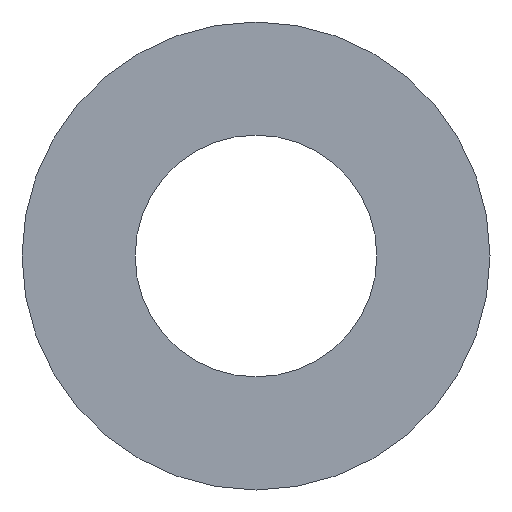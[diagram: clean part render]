
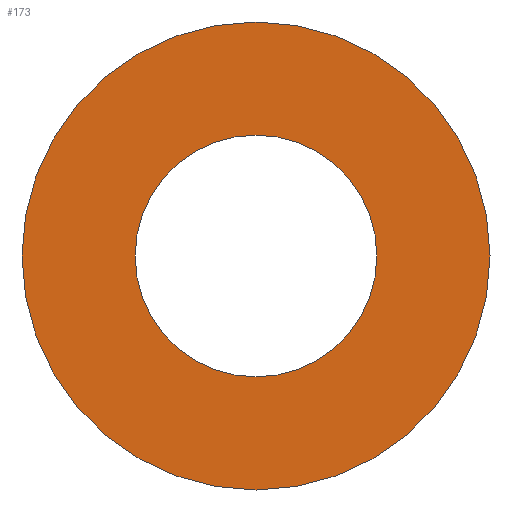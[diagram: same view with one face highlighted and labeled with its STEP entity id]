
A CAD part, front view. The second image highlights one B-rep face of the part: STEP entity #173.
In plain terms, the highlighted planar face has unit normal (0, -1, 0).
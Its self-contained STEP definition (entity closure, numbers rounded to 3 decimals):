
#27 = EDGE_CURVE ( 'NONE', #118, #78, #109, .T. ) ;
#36 = AXIS2_PLACEMENT_3D ( 'NONE', #167, #101, #104 ) ;
#41 = DIRECTION ( 'NONE',  ( 0., 0., 1. ) ) ;
#43 = AXIS2_PLACEMENT_3D ( 'NONE', #207, #44, #231 ) ;
#44 = DIRECTION ( 'NONE',  ( 0., 1., 0. ) ) ;
#45 = EDGE_CURVE ( 'NONE', #78, #118, #202, .T. ) ;
#47 = CARTESIAN_POINT ( 'NONE',  ( 0., 0., 15.5 ) ) ;
#48 = AXIS2_PLACEMENT_3D ( 'NONE', #271, #106, #41 ) ;
#50 = EDGE_CURVE ( 'NONE', #251, #95, #239, .T. ) ;
#53 = EDGE_LOOP ( 'NONE', ( #142, #75 ) ) ;
#63 = DIRECTION ( 'NONE',  ( 0., 1., 0. ) ) ;
#75 = ORIENTED_EDGE ( 'NONE', *, *, #45, .F. ) ;
#78 = VERTEX_POINT ( 'NONE', #189 ) ;
#95 = VERTEX_POINT ( 'NONE', #192 ) ;
#98 = CIRCLE ( 'NONE', #169, 15.5 ) ;
#101 = DIRECTION ( 'NONE',  ( 0., 1., 0. ) ) ;
#102 = DIRECTION ( 'NONE',  ( 0., 1., 0. ) ) ;
#103 = AXIS2_PLACEMENT_3D ( 'NONE', #258, #63, #214 ) ;
#104 = DIRECTION ( 'NONE',  ( 0., 0., 1. ) ) ;
#106 = DIRECTION ( 'NONE',  ( 0., 1., 0. ) ) ;
#109 = CIRCLE ( 'NONE', #43, 30. ) ;
#116 = ORIENTED_EDGE ( 'NONE', *, *, #50, .T. ) ;
#118 = VERTEX_POINT ( 'NONE', #193 ) ;
#122 = EDGE_LOOP ( 'NONE', ( #178, #116 ) ) ;
#142 = ORIENTED_EDGE ( 'NONE', *, *, #27, .F. ) ;
#167 = CARTESIAN_POINT ( 'NONE',  ( 0., 0., 0. ) ) ;
#169 = AXIS2_PLACEMENT_3D ( 'NONE', #276, #102, #190 ) ;
#173 = ADVANCED_FACE ( 'NONE', ( #236, #255 ), #277, .F. ) ;
#178 = ORIENTED_EDGE ( 'NONE', *, *, #204, .T. ) ;
#189 = CARTESIAN_POINT ( 'NONE',  ( 0., 0., 30. ) ) ;
#190 = DIRECTION ( 'NONE',  ( 0., 0., 1. ) ) ;
#192 = CARTESIAN_POINT ( 'NONE',  ( 0., 0., -15.5 ) ) ;
#193 = CARTESIAN_POINT ( 'NONE',  ( 0., 0., -30. ) ) ;
#202 = CIRCLE ( 'NONE', #103, 30. ) ;
#204 = EDGE_CURVE ( 'NONE', #95, #251, #98, .T. ) ;
#207 = CARTESIAN_POINT ( 'NONE',  ( 0., 0., 0. ) ) ;
#214 = DIRECTION ( 'NONE',  ( 0., 0., 1. ) ) ;
#231 = DIRECTION ( 'NONE',  ( 0., 0., 1. ) ) ;
#236 = FACE_OUTER_BOUND ( 'NONE', #53, .T. ) ;
#239 = CIRCLE ( 'NONE', #36, 15.5 ) ;
#251 = VERTEX_POINT ( 'NONE', #47 ) ;
#255 = FACE_BOUND ( 'NONE', #122, .T. ) ;
#258 = CARTESIAN_POINT ( 'NONE',  ( 0., 0., 0. ) ) ;
#271 = CARTESIAN_POINT ( 'NONE',  ( 0., 0., 0. ) ) ;
#276 = CARTESIAN_POINT ( 'NONE',  ( 0., 0., 0. ) ) ;
#277 = PLANE ( 'NONE',  #48 ) ;
